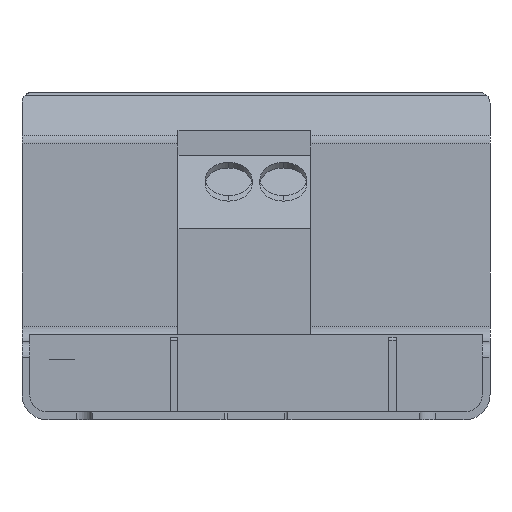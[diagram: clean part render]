
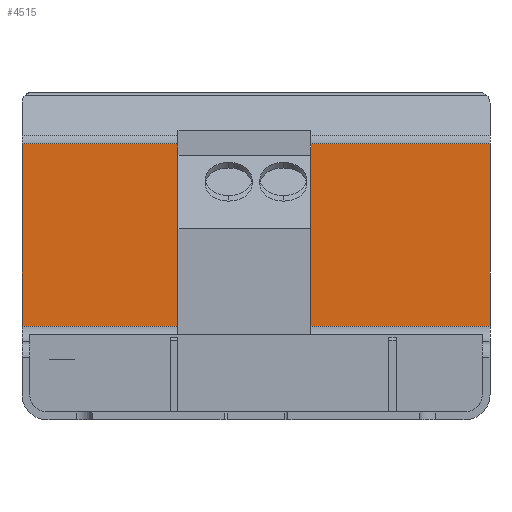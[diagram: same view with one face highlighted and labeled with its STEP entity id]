
A CAD part, front view. The second image highlights one B-rep face of the part: STEP entity #4515.
In plain terms, the highlighted planar face has unit normal (0, -1, 0).
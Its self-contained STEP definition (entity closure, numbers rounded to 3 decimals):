
#728=DIRECTION('',(1.,0.,0.));
#729=VECTOR('',#728,30.);
#730=CARTESIAN_POINT('',(-113.306,47.261,38.443));
#731=LINE('',#730,#729);
#1331=DIRECTION('',(-1.,0.,0.));
#1332=VECTOR('',#1331,30.);
#1333=CARTESIAN_POINT('',(-83.306,47.261,50.153));
#1334=LINE('',#1333,#1332);
#1345=DIRECTION('',(0.,0.,1.));
#1346=VECTOR('',#1345,11.71);
#1347=CARTESIAN_POINT('',(-113.306,47.261,38.443));
#1348=LINE('',#1347,#1346);
#1352=DIRECTION('',(0.,0.,-1.));
#1353=VECTOR('',#1352,11.71);
#1354=CARTESIAN_POINT('',(-83.306,47.261,50.153));
#1355=LINE('',#1354,#1353);
#3099=CARTESIAN_POINT('',(-83.306,47.261,38.443));
#3100=VERTEX_POINT('',#3099);
#3101=CARTESIAN_POINT('',(-83.306,47.261,50.153));
#3102=VERTEX_POINT('',#3101);
#3153=CARTESIAN_POINT('',(-113.306,47.261,50.153));
#3154=VERTEX_POINT('',#3153);
#3155=CARTESIAN_POINT('',(-113.306,47.261,38.443));
#3156=VERTEX_POINT('',#3155);
#4504=CARTESIAN_POINT('',(-113.306,47.261,37.893));
#4505=DIRECTION('',(0.,-1.,0.));
#4506=DIRECTION('',(0.,0.,1.));
#4507=AXIS2_PLACEMENT_3D('',#4504,#4505,#4506);
#4508=PLANE('',#4507);
#4509=ORIENTED_EDGE('',*,*,#4050,.F.);
#4510=ORIENTED_EDGE('',*,*,#3754,.T.);
#4511=ORIENTED_EDGE('',*,*,#4496,.F.);
#4512=ORIENTED_EDGE('',*,*,#4349,.T.);
#4513=EDGE_LOOP('',(#4509,#4510,#4511,#4512));
#4514=FACE_OUTER_BOUND('',#4513,.F.);
#3754=EDGE_CURVE('',#3156,#3154,#1348,.T.);
#4050=EDGE_CURVE('',#3156,#3100,#731,.T.);
#4349=EDGE_CURVE('',#3102,#3100,#1355,.T.);
#4496=EDGE_CURVE('',#3102,#3154,#1334,.T.);
#4515=ADVANCED_FACE('',(#4514),#4508,.T.);
